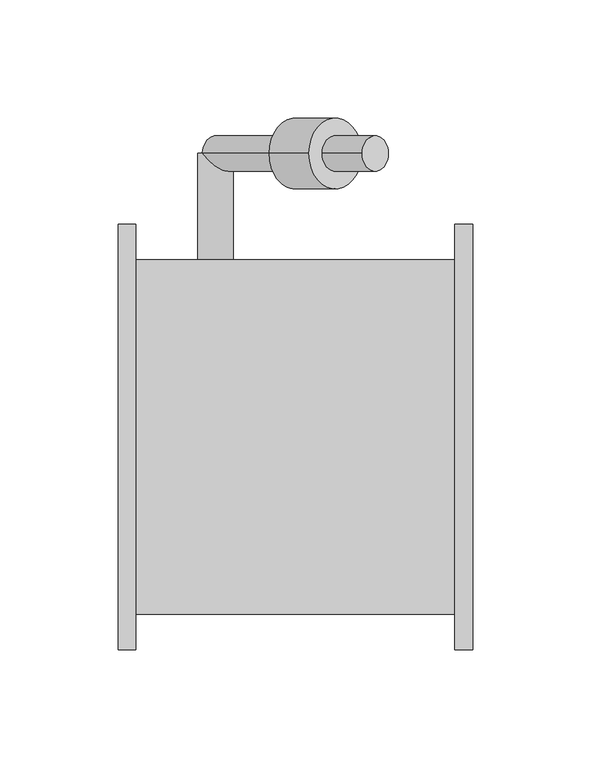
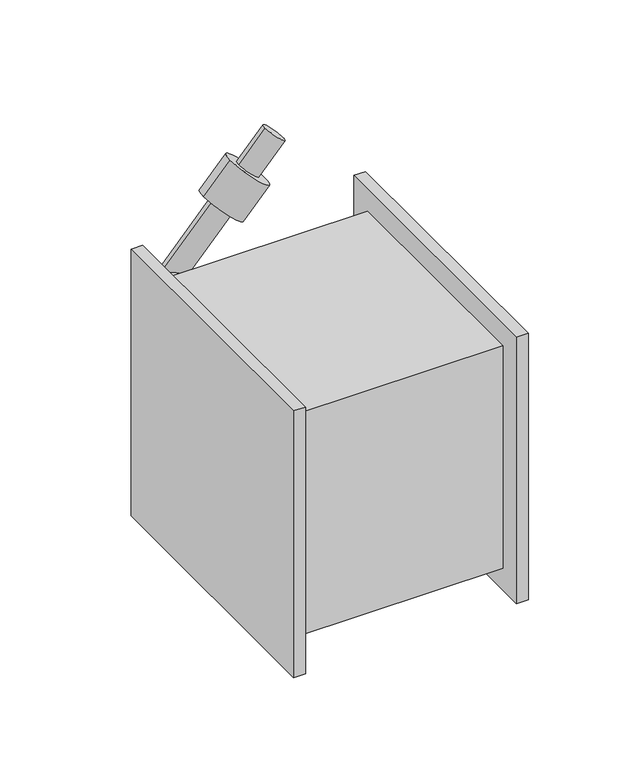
"""IFC4 building model written with IfcOpenShell, lengths in millimetres: damper geometry, Серия 5.904-58. Прямоугольный взрывозащищенный обратный клапан : AZE 102.000."""

from ifc_helpers import new_model, si_unit, frame, origin, place, context, project, spatial, circle_curve, ellipse_curve, source, transform, mapped, element, save
from ifc_brep_helpers import plane_surface, cylinder_surface, advanced_brep


def damper_459daeea(model_context):
    return source(origin(), model_context, "Body", "AdvancedBrep", [
        advanced_brep(
        [(67.5, -75.0, 75.0), (-67.5, -75.0, 75.0), (-67.5, -75.0, -75.0), (67.5, -75.0, -75.0), (-67.5, 75.0, -75.0), (67.5, 75.0, -75.0), (-67.5, 75.0, 75.0), (67.5, 75.0, 75.0), (-41.25, 75.0, 37.5), (-26.25, 75.0, 37.5), (-41.25, 120.0, 37.5), (-39.3247061, 120.0, 42.5172355), (-28.1752939, 120.0, 32.4827645), (-26.25, 114.9827645, 37.5), (5.5747061, 120.0, 69.9827645), (-5.5747061, 120.0, 80.0172355), (11.1494122, 120.0, 64.965529), (-11.1494122, 120.0, 85.034471), (28.0244122, 120.0, 83.715529), (5.7255878, 120.0, 103.784471), (22.4497061, 120.0, 88.7327645), (11.3002939, 120.0, 98.7672355), (39.3247061, 120.0, 107.4827645), (28.1752939, 120.0, 117.5172355), (-67.5, -90.0, 90.0), (-67.5, -90.0, -90.0), (-67.5, 90.0, -90.0), (-67.5, 90.0, 90.0), (-75.0, -90.0, 90.0), (-75.0, 90.0, 90.0), (-75.0, 90.0, -90.0), (-75.0, -90.0, -90.0), (75.0, -90.0, 90.0), (75.0, -90.0, -90.0), (75.0, 90.0, -90.0), (75.0, 90.0, 90.0), (67.5, -90.0, 90.0), (67.5, 90.0, 90.0), (67.5, 90.0, -90.0), (67.5, -90.0, -90.0)],
        [
            (0, 1),
            (1, 2),
            (2, 3),
            (3, 0),
            (2, 4),
            (4, 5),
            (5, 3),
            (4, 6),
            (6, 7),
            (7, 5),
            (8, 9, circle_curve(frame((-33.75, 75.0, 37.5), z_axis=(0.0, -1.0, 0.0), x_axis=(1.0, 0.0, 0.0)), 7.5)),
            (9, 8, circle_curve(frame((-33.75, 75.0, 37.5), z_axis=(0.0, -1.0, 0.0), x_axis=(1.0, 0.0, 0.0)), 7.5)),
            (0, 7),
            (6, 1),
            (10, 11, circle_curve(frame((-33.75, 120.0, 37.5), z_axis=(0.0, 1.0, 0.0), x_axis=(1.0, 0.0, 0.0)), 7.5)),
            (11, 12),
            (12, 10, circle_curve(frame((-33.75, 120.0, 37.5), z_axis=(0.0, 1.0, 0.0), x_axis=(1.0, 0.0, 0.0)), 7.5)),
            (8, 10),
            (12, 13, ellipse_curve(frame((-33.75, 120.0, 37.5), z_axis=(-0.47302949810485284, -0.7071067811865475, -0.5255883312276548), x_axis=(0.4730294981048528, -0.7071067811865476, 0.5255883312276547)), 10.6066017, 7.5)),
            (13, 9),
            (13, 11, ellipse_curve(frame((-33.75, 120.0, 37.5), z_axis=(-0.47302949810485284, -0.7071067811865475, -0.5255883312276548), x_axis=(0.4730294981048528, -0.7071067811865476, 0.5255883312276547)), 10.6066017, 7.5)),
            (11, 12, circle_curve(frame((-33.75, 120.0, 37.5), z_axis=(-0.6689647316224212, 0.0, -0.743294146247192), x_axis=(-0.743294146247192, 0.0, 0.6689647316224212)), 7.5)),
            (12, 14),
            (14, 15, circle_curve(frame((0.0, 120.0, 75.0), z_axis=(-0.6689647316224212, 0.0, -0.743294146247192), x_axis=(-0.743294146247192, 0.0, 0.6689647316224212)), 7.5)),
            (15, 11),
            (15, 14, circle_curve(frame((0.0, 120.0, 75.0), z_axis=(-0.6689647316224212, 0.0, -0.743294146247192), x_axis=(-0.743294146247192, 0.0, 0.6689647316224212)), 7.5)),
            (16, 17, circle_curve(frame((0.0, 120.0, 75.0), z_axis=(-0.6689647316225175, 0.0, -0.7432941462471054), x_axis=(-0.7432941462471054, 0.0, 0.6689647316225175)), 15.0)),
            (17, 16, circle_curve(frame((0.0, 120.0, 75.0), z_axis=(-0.6689647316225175, 0.0, -0.7432941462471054), x_axis=(-0.7432941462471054, 0.0, 0.6689647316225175)), 15.0)),
            (18, 19, circle_curve(frame((16.875, 120.0, 93.75), z_axis=(0.6689647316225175, 0.0, 0.7432941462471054), x_axis=(-0.7432941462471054, 0.0, 0.6689647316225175)), 15.0)),
            (19, 18, circle_curve(frame((16.875, 120.0, 93.75), z_axis=(0.6689647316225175, 0.0, 0.7432941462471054), x_axis=(-0.7432941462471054, 0.0, 0.6689647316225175)), 15.0)),
            (20, 21, circle_curve(frame((16.875, 120.0, 93.75), z_axis=(-0.6689647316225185, 0.0, -0.7432941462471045), x_axis=(-0.7432941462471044, 0.0, 0.6689647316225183)), 7.5)),
            (21, 20, circle_curve(frame((16.875, 120.0, 93.75), z_axis=(-0.6689647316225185, 0.0, -0.7432941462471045), x_axis=(-0.7432941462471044, 0.0, 0.6689647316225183)), 7.5)),
            (16, 18),
            (19, 17),
            (22, 23, circle_curve(frame((33.75, 120.0, 112.5), z_axis=(0.6689647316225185, 0.0, 0.7432941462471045), x_axis=(-0.7432941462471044, 0.0, 0.6689647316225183)), 7.5)),
            (23, 22, circle_curve(frame((33.75, 120.0, 112.5), z_axis=(0.6689647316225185, 0.0, 0.7432941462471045), x_axis=(-0.7432941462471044, 0.0, 0.6689647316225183)), 7.5)),
            (23, 21),
            (20, 22),
            (24, 25),
            (25, 26),
            (26, 27),
            (27, 24),
            (28, 29),
            (29, 30),
            (30, 31),
            (31, 28),
            (24, 28),
            (31, 25),
            (30, 26),
            (29, 27),
            (32, 33),
            (33, 34),
            (34, 35),
            (35, 32),
            (36, 37),
            (37, 38),
            (38, 39),
            (39, 36),
            (32, 36),
            (39, 33),
            (38, 34),
            (37, 35),
        ],
        [
            plane_surface(frame((67.5, -75.0, 75.0), z_axis=(0.0, -1.0, 0.0), x_axis=(-1.0, 0.0, 0.0))),
            plane_surface(frame((67.5, -75.0, -75.0), z_axis=(0.0, 0.0, -1.0), x_axis=(-1.0, 0.0, 0.0))),
            plane_surface(frame((67.5, 75.0, -75.0), z_axis=(0.0, 1.0, 0.0), x_axis=(-1.0, 0.0, 0.0))),
            plane_surface(frame((67.5, 75.0, 75.0), z_axis=(0.0, 0.0, 1.0), x_axis=(-1.0, 0.0, 0.0))),
            plane_surface(frame((-26.25, 120.0, 37.5), z_axis=(0.0, 1.0, 0.0), x_axis=(0.0, 0.0, -1.0))),
            cylinder_surface(frame((-33.75, 120.0, 37.5), z_axis=(0.0, -1.0, 0.0), x_axis=(1.0, 0.0, 0.0)), 7.5),
            plane_surface(frame((-33.75, 0.0, 37.5), z_axis=(-0.6689647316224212, 0.0, -0.743294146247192), x_axis=(0.0, -1.0, 0.0))),
            cylinder_surface(frame((-33.75, 120.0, 37.5), z_axis=(-0.6689647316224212, 0.0, -0.743294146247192), x_axis=(-0.743294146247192, 0.0, 0.6689647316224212)), 7.5),
            plane_surface(frame((0.0, 0.0, 75.0), z_axis=(-0.6689647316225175, 0.0, -0.7432941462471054), x_axis=(0.0, -1.0, 0.0))),
            plane_surface(frame((16.875, 0.0, 93.75), z_axis=(0.6689647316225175, 0.0, 0.7432941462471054), x_axis=(0.0, -1.0, 0.0))),
            cylinder_surface(frame((0.0, 120.0, 75.0), z_axis=(-0.6689647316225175, 0.0, -0.7432941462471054), x_axis=(-0.7432941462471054, 0.0, 0.6689647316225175)), 15.0),
            plane_surface(frame((33.75, 0.0, 112.5), z_axis=(0.6689647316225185, 0.0, 0.7432941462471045), x_axis=(0.0, -1.0, 0.0))),
            cylinder_surface(frame((16.875, 120.0, 93.75), z_axis=(-0.6689647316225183, 0.0, -0.7432941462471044), x_axis=(-0.7432941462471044, 0.0, 0.6689647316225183)), 7.5),
            plane_surface(frame((-67.5, -90.0, 90.0), z_axis=(1.0, 0.0, 0.0), x_axis=(0.0, 0.0, -1.0))),
            plane_surface(frame((-75.0, -90.0, 90.0), z_axis=(-1.0, 0.0, 0.0), x_axis=(0.0, 0.0, 1.0))),
            plane_surface(frame((-67.5, -90.0, 90.0), z_axis=(0.0, -1.0, 0.0), x_axis=(-1.0, 0.0, 0.0))),
            plane_surface(frame((-67.5, -90.0, -90.0), z_axis=(0.0, 0.0, -1.0), x_axis=(-1.0, 0.0, 0.0))),
            plane_surface(frame((-67.5, 90.0, -90.0), z_axis=(0.0, 1.0, 0.0), x_axis=(-1.0, 0.0, 0.0))),
            plane_surface(frame((-67.5, 90.0, 90.0), z_axis=(0.0, 0.0, 1.0), x_axis=(-1.0, 0.0, 0.0))),
            plane_surface(frame((75.0, -90.0, 90.0), z_axis=(1.0, 0.0, 0.0), x_axis=(0.0, 0.0, -1.0))),
            plane_surface(frame((67.5, -90.0, 90.0), z_axis=(-1.0, 0.0, 0.0), x_axis=(0.0, 0.0, 1.0))),
            plane_surface(frame((75.0, -90.0, 90.0), z_axis=(0.0, -1.0, 0.0), x_axis=(-1.0, 0.0, 0.0))),
            plane_surface(frame((75.0, -90.0, -90.0), z_axis=(0.0, 0.0, -1.0), x_axis=(-1.0, 0.0, 0.0))),
            plane_surface(frame((75.0, 90.0, -90.0), z_axis=(0.0, 1.0, 0.0), x_axis=(-1.0, 0.0, 0.0))),
            plane_surface(frame((75.0, 90.0, 90.0), z_axis=(0.0, 0.0, 1.0), x_axis=(-1.0, 0.0, 0.0))),
        ],
        [
            (0, [[1, 2, 3, 4]]),
            (1, [[-3, 5, 6, 7]]),
            (2, [[-6, 8, 9, 10], [11, 12]]),
            (3, [[-1, 13, -9, 14]]),
            (4, [[15, 16, 17]]),
            (5, [[18, -17, 19, 20, -11]]),
            (5, [[-18, -12, -20, 21, -15]]),
            (6, [[22, -16]]),
            (7, [[23, 24, 25, -21, -19]]),
            (7, [[-22, -25, 26, -23]]),
            (8, [[27, 28], [-24, -26]]),
            (9, [[29, 30], [31, 32]]),
            (10, [[-27, 33, -30, 34]]),
            (10, [[-28, -34, -29, -33]]),
            (11, [[35, 36]]),
            (12, [[-36, 37, -31, 38]]),
            (12, [[-35, -38, -32, -37]]),
            (13, [[39, 40, 41, 42], [-2, -14, -8, -5]]),
            (14, [[43, 44, 45, 46]]),
            (15, [[-39, 47, -46, 48]]),
            (16, [[-40, -48, -45, 49]]),
            (17, [[-41, -49, -44, 50]]),
            (18, [[-42, -50, -43, -47]]),
            (19, [[51, 52, 53, 54]]),
            (20, [[55, 56, 57, 58], [-4, -7, -10, -13]]),
            (21, [[-51, 59, -58, 60]]),
            (22, [[-52, -60, -57, 61]]),
            (23, [[-53, -61, -56, 62]]),
            (24, [[-54, -62, -55, -59]]),
        ],
    ),
    ])


if __name__ == "__main__":
    model = new_model("IFC4")
    model_context = context("Model", 3, world=origin())
    ifc_project = project(units=[si_unit("LENGTHUNIT", "METRE", prefix="MILLI")], contexts=[model_context])
    site = spatial("IfcSite", under=ifc_project)
    building = spatial("IfcBuilding", under=site)
    placement = place(None, origin())
    damper_shape = damper_459daeea(model_context)
    element("IfcDamper", 1, ObjectType="Серия 5.904-58. Прямоугольный взрывозащищенный обратный клапан : AZE 102.000", at=placement, inside=building, context=model_context, shape_type="MappedRepresentation", body=[
        mapped(damper_shape, transform((0.0, 0.0, 0.0), x_axis=(1.0, 0.0, 0.0), y_axis=(0.0, 1.0, 0.0), z_axis=(0.0, 0.0, 1.0))),
    ])
    save(model, "model.ifc")
